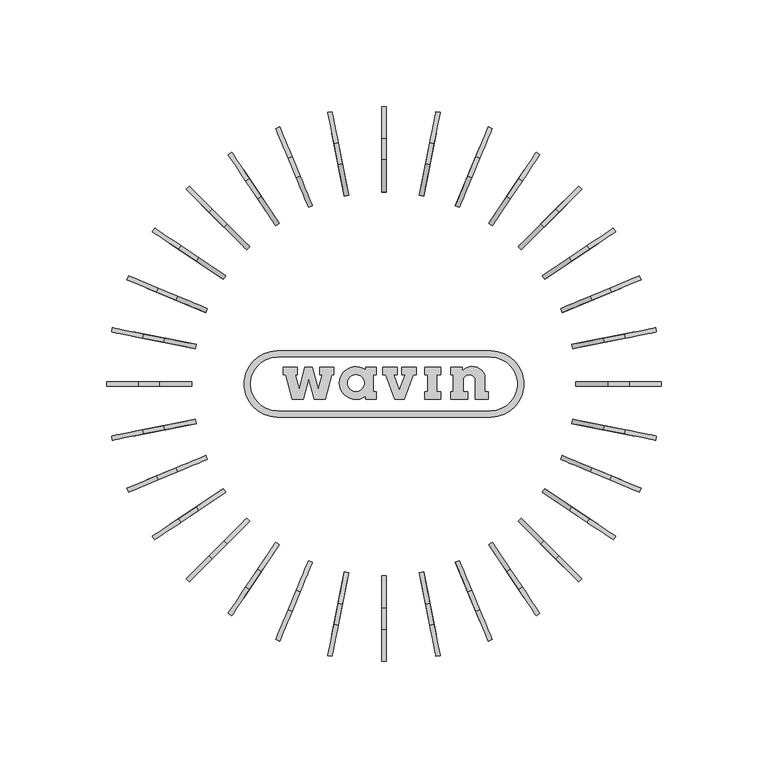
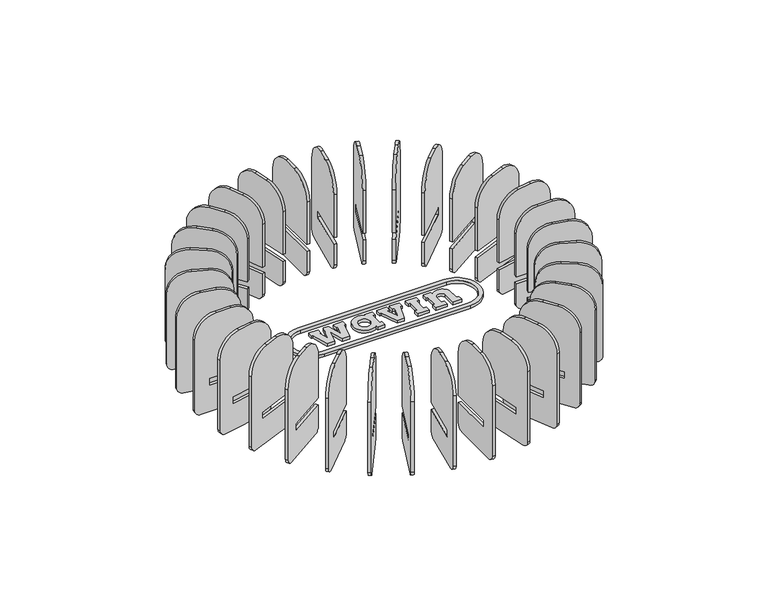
"""IFC4 building model written with IfcOpenShell, lengths in millimetres: sanitary terminal geometry, PAVCO_PVC QS Tragante : QS-M-75-260 Membrana."""

from ifc_helpers import new_model, si_unit, point, frame, frame_2d, origin, place, context, project, spatial, polyline, circle_curve, trimmed, segment, composite_curve, outline, extrude, source, transform, mapped, element, save


def sanitary_terminal_9fa39033(model_context):
    return source(origin(), model_context, "Body", "SweptSolid", [
        extrude(outline(composite_curve([segment(trimmed(circle_curve(frame_2d((0.0, -4.0)), 4.0), [point((-4.0, -4.0))], [point((0.0, 0.0))], False, "CARTESIAN"), True, "CONTINUOUS"), segment(polyline([(0.0, 0.0), (15.0, 0.0), (15.0, -29.9999999), (20.0, -29.9999999), (20.0, 0.0), (51.0, 0.0)]), True, "CONTINUOUS"), segment(trimmed(circle_curve(frame_2d((51.0, -14.9999999)), 15.0), [point((51.0, 0.0))], [point((66.0, -14.9999999))], False, "CARTESIAN"), True, "CONTINUOUS"), segment(polyline([(66.0, -14.9999999), (66.0, -25.0)]), True, "CONTINUOUS"), segment(trimmed(circle_curve(frame_2d((51.0, -25.0)), 15.0), [point((66.0, -25.0))], [point((51.0, -40.0))], False, "CARTESIAN"), True, "CONTINUOUS"), segment(polyline([(51.0, -40.0), (0.0, -40.0)]), True, "CONTINUOUS"), segment(trimmed(circle_curve(frame_2d((0.0, -35.9999999)), 4.0), [point((0.0, -40.0))], [point((-4.0, -35.9999999))], False, "CARTESIAN"), True, "CONTINUOUS"), segment(polyline([(-4.0, -35.9999999), (-4.0, -4.0)]), True, "CONTINUOUS")], self_intersect=False)), frame((-83.5318414, 33.5176294, -4.0), z_axis=(0.38268343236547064, 0.9238795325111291, 0.0), x_axis=(0.0, 0.0, 1.0)), (0.0, 0.0, 1.0), 2.0),
        extrude(outline(composite_curve([segment(trimmed(circle_curve(frame_2d((0.0, -4.0)), 4.0), [point((-4.0, -4.0))], [point((0.0, 0.0))], False, "CARTESIAN"), True, "CONTINUOUS"), segment(polyline([(0.0, 0.0), (15.0, 0.0), (15.0, -30.0), (20.0, -30.0), (20.0, 0.0), (51.0, 0.0)]), True, "CONTINUOUS"), segment(trimmed(circle_curve(frame_2d((51.0, -15.0)), 15.0), [point((51.0, 0.0))], [point((66.0, -15.0))], False, "CARTESIAN"), True, "CONTINUOUS"), segment(polyline([(66.0, -15.0), (66.0, -25.0)]), True, "CONTINUOUS"), segment(trimmed(circle_curve(frame_2d((51.0, -25.0)), 15.0), [point((66.0, -25.0))], [point((51.0, -40.0))], False, "CARTESIAN"), True, "CONTINUOUS"), segment(polyline([(51.0, -40.0), (0.0, -40.0)]), True, "CONTINUOUS"), segment(trimmed(circle_curve(frame_2d((0.0, -36.0)), 4.0), [point((0.0, -40.0))], [point((-4.0, -36.0))], False, "CARTESIAN"), True, "CONTINUOUS"), segment(polyline([(-4.0, -36.0), (-4.0, -4.0)]), True, "CONTINUOUS")], self_intersect=False)), frame((-75.3878353, 49.1698514, -4.0), z_axis=(0.5555702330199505, 0.8314696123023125, 0.0), x_axis=(0.0, 0.0, 1.0)), (0.0, 0.0, 1.0), 2.0),
        extrude(outline(composite_curve([segment(trimmed(circle_curve(frame_2d((0.0, -4.0)), 4.0), [point((-4.0, -4.0))], [point((0.0, 0.0))], False, "CARTESIAN"), True, "CONTINUOUS"), segment(polyline([(0.0, 0.0), (15.0, 0.0), (15.0, -30.0), (20.0, -30.0), (20.0, 0.0), (51.0, 0.0)]), True, "CONTINUOUS"), segment(trimmed(circle_curve(frame_2d((51.0, -15.0)), 15.0), [point((51.0, 0.0))], [point((66.0, -15.0))], False, "CARTESIAN"), True, "CONTINUOUS"), segment(polyline([(66.0, -15.0), (66.0, -25.0)]), True, "CONTINUOUS"), segment(trimmed(circle_curve(frame_2d((51.0, -25.0)), 15.0), [point((66.0, -25.0))], [point((51.0, -40.0))], False, "CARTESIAN"), True, "CONTINUOUS"), segment(polyline([(51.0, -40.0), (0.0, -40.0)]), True, "CONTINUOUS"), segment(trimmed(circle_curve(frame_2d((0.0, -36.0)), 4.0), [point((0.0, -40.0))], [point((-4.0, -36.0))], False, "CARTESIAN"), True, "CONTINUOUS"), segment(polyline([(-4.0, -36.0), (-4.0, -4.0)]), True, "CONTINUOUS")], self_intersect=False)), frame((-64.3467171, 62.9325035, -4.0), z_axis=(0.7071067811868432, 0.7071067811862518, 0.0), x_axis=(0.0, 0.0, 1.0)), (0.0, 0.0, 1.0), 2.0),
        extrude(outline(composite_curve([segment(trimmed(circle_curve(frame_2d((0.0, -3.9999999)), 4.0), [point((-4.0, -3.9999999))], [point((0.0, 0.0))], False, "CARTESIAN"), True, "CONTINUOUS"), segment(polyline([(0.0, 0.0), (15.0, 0.0), (15.0, -29.9999999), (20.0, -29.9999999), (20.0, 0.0), (51.0, 0.0)]), True, "CONTINUOUS"), segment(trimmed(circle_curve(frame_2d((51.0, -15.0)), 15.0), [point((51.0, 0.0))], [point((66.0, -15.0))], False, "CARTESIAN"), True, "CONTINUOUS"), segment(polyline([(66.0, -15.0), (66.0, -25.0)]), True, "CONTINUOUS"), segment(trimmed(circle_curve(frame_2d((51.0, -25.0)), 15.0), [point((66.0, -25.0))], [point((51.0, -40.0))], False, "CARTESIAN"), True, "CONTINUOUS"), segment(polyline([(51.0, -40.0), (0.0, -40.0)]), True, "CONTINUOUS"), segment(trimmed(circle_curve(frame_2d((0.0, -36.0)), 4.0), [point((0.0, -40.0))], [point((-4.0, -36.0))], False, "CARTESIAN"), True, "CONTINUOUS"), segment(polyline([(-4.0, -36.0), (-4.0, -3.9999999)]), True, "CONTINUOUS")], self_intersect=False)), frame((-50.8327906, 74.2766949, -4.0), z_axis=(0.8314696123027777, 0.5555702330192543, 0.0), x_axis=(0.0, 0.0, 1.0)), (0.0, 0.0, 1.0), 2.0),
        extrude(outline(composite_curve([segment(trimmed(circle_curve(frame_2d((0.0, -4.0)), 4.0), [point((-4.0, -4.0))], [point((0.0, 0.0))], False, "CARTESIAN"), True, "CONTINUOUS"), segment(polyline([(0.0, 0.0), (15.0, 0.0), (15.0, -30.0), (20.0, -30.0), (20.0, 0.0), (51.0, 0.0)]), True, "CONTINUOUS"), segment(trimmed(circle_curve(frame_2d((51.0, -15.0)), 15.0), [point((51.0, 0.0))], [point((66.0, -15.0))], False, "CARTESIAN"), True, "CONTINUOUS"), segment(polyline([(66.0, -15.0), (66.0, -25.0)]), True, "CONTINUOUS"), segment(trimmed(circle_curve(frame_2d((51.0, -25.0)), 15.0), [point((66.0, -25.0))], [point((51.0, -40.0))], False, "CARTESIAN"), True, "CONTINUOUS"), segment(polyline([(51.0, -40.0), (0.0, -40.0)]), True, "CONTINUOUS"), segment(trimmed(circle_curve(frame_2d((0.0, -36.0)), 4.0), [point((0.0, -40.0))], [point((-4.0, -36.0))], False, "CARTESIAN"), True, "CONTINUOUS"), segment(polyline([(-4.0, -36.0), (-4.0, -4.0)]), True, "CONTINUOUS")], self_intersect=False)), frame((-35.3653884, 82.7664745, -4.0), z_axis=(0.9238795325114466, 0.3826834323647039, 0.0), x_axis=(0.0, 0.0, 1.0)), (0.0, 0.0, 1.0), 2.0),
        extrude(outline(composite_curve([segment(trimmed(circle_curve(frame_2d((0.0, -4.0)), 4.0), [point((-4.0, -4.0))], [point((0.0, 0.0))], False, "CARTESIAN"), True, "CONTINUOUS"), segment(polyline([(0.0, 0.0), (15.0, 0.0), (15.0, -30.0), (20.0, -30.0), (20.0, 0.0), (51.0, 0.0)]), True, "CONTINUOUS"), segment(trimmed(circle_curve(frame_2d((51.0, -15.0)), 15.0), [point((51.0, 0.0))], [point((66.0, -15.0))], False, "CARTESIAN"), True, "CONTINUOUS"), segment(polyline([(66.0, -15.0), (66.0, -25.0)]), True, "CONTINUOUS"), segment(trimmed(circle_curve(frame_2d((51.0, -25.0)), 15.0), [point((66.0, -25.0))], [point((51.0, -40.0))], False, "CARTESIAN"), True, "CONTINUOUS"), segment(polyline([(51.0, -40.0), (0.0, -40.0)]), True, "CONTINUOUS"), segment(trimmed(circle_curve(frame_2d((0.0, -36.0)), 4.0), [point((0.0, -40.0))], [point((-4.0, -36.0))], False, "CARTESIAN"), True, "CONTINUOUS"), segment(polyline([(-4.0, -36.0), (-4.0, -4.0)]), True, "CONTINUOUS")], self_intersect=False)), frame((-18.5389143, 88.0755849, -4.0), z_axis=(0.980785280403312, 0.19509032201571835, 0.0), x_axis=(0.0, 0.0, 1.0)), (0.0, 0.0, 1.0), 2.0),
        extrude(outline(composite_curve([segment(trimmed(circle_curve(frame_2d((94.0, -4.0)), 4.0), [point((94.0, -8.0))], [point((90.0, -4.0))], False, "CARTESIAN"), True, "CONTINUOUS"), segment(polyline([(90.0, -4.0), (90.0, 11.0), (120.0, 11.0), (120.0, 16.0), (90.0, 16.0), (90.0, 47.0)]), True, "CONTINUOUS"), segment(trimmed(circle_curve(frame_2d((105.0, 47.0)), 15.0), [point((90.0, 47.0))], [point((105.0, 62.0))], False, "CARTESIAN"), True, "CONTINUOUS"), segment(polyline([(105.0, 62.0), (115.0, 62.0)]), True, "CONTINUOUS"), segment(trimmed(circle_curve(frame_2d((115.0, 47.0)), 15.0), [point((115.0, 62.0))], [point((130.0, 47.0))], False, "CARTESIAN"), True, "CONTINUOUS"), segment(polyline([(130.0, 47.0), (130.0, -4.0)]), True, "CONTINUOUS"), segment(trimmed(circle_curve(frame_2d((126.0, -4.0)), 4.0), [point((130.0, -4.0))], [point((126.0, -8.0))], False, "CARTESIAN"), True, "CONTINUOUS"), segment(polyline([(126.0, -8.0), (94.0, -8.0)]), True, "CONTINUOUS")], self_intersect=False)), frame((-1.0, 0.0, 0.0), z_axis=(1.0, 0.0, 0.0), x_axis=(0.0, 1.0, 0.0)), (0.0, 0.0, 1.0), 2.0),
        extrude(outline(composite_curve([segment(polyline([(4.0, -4.0), (4.0, -36.0)]), True, "CONTINUOUS"), segment(trimmed(circle_curve(frame_2d((0.0, -36.0)), 4.0), [point((4.0, -36.0))], [point((0.0, -40.0))], False, "CARTESIAN"), True, "CONTINUOUS"), segment(polyline([(0.0, -40.0), (-51.0, -40.0)]), True, "CONTINUOUS"), segment(trimmed(circle_curve(frame_2d((-51.0, -25.0)), 15.0), [point((-51.0, -40.0))], [point((-66.0, -25.0))], False, "CARTESIAN"), True, "CONTINUOUS"), segment(polyline([(-66.0, -25.0), (-66.0, -15.0)]), True, "CONTINUOUS"), segment(trimmed(circle_curve(frame_2d((-51.0, -15.0)), 15.0), [point((-66.0, -15.0))], [point((-51.0, 0.0))], False, "CARTESIAN"), True, "CONTINUOUS"), segment(polyline([(-51.0, 0.0), (-20.0, 0.0), (-20.0, -30.0), (-15.0, -30.0), (-15.0, 0.0), (0.0, 0.0)]), True, "CONTINUOUS"), segment(trimmed(circle_curve(frame_2d((0.0, -4.0)), 4.0), [point((0.0, 0.0))], [point((4.0, -4.0))], False, "CARTESIAN"), True, "CONTINUOUS")], self_intersect=False)), frame((18.5389143, 88.0755849, -4.0), z_axis=(-0.9807852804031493, 0.19509032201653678, 0.0), x_axis=(0.0, 0.0, -1.0)), (0.0, 0.0, 1.0), 2.0),
        extrude(outline(composite_curve([segment(polyline([(4.0, -4.0), (4.0, -36.0)]), True, "CONTINUOUS"), segment(trimmed(circle_curve(frame_2d((0.0, -36.0)), 4.0), [point((4.0, -36.0))], [point((0.0, -40.0))], False, "CARTESIAN"), True, "CONTINUOUS"), segment(polyline([(0.0, -40.0), (-51.0, -40.0)]), True, "CONTINUOUS"), segment(trimmed(circle_curve(frame_2d((-51.0, -25.0)), 15.0), [point((-51.0, -40.0))], [point((-66.0, -25.0))], False, "CARTESIAN"), True, "CONTINUOUS"), segment(polyline([(-66.0, -25.0), (-66.0, -15.0)]), True, "CONTINUOUS"), segment(trimmed(circle_curve(frame_2d((-51.0, -15.0)), 15.0), [point((-66.0, -15.0))], [point((-51.0, 0.0))], False, "CARTESIAN"), True, "CONTINUOUS"), segment(polyline([(-51.0, 0.0), (-20.0, 0.0), (-20.0, -30.0), (-15.0, -30.0), (-15.0, 0.0), (0.0, 0.0)]), True, "CONTINUOUS"), segment(trimmed(circle_curve(frame_2d((0.0, -4.0)), 4.0), [point((0.0, 0.0))], [point((4.0, -4.0))], False, "CARTESIAN"), True, "CONTINUOUS")], self_intersect=False)), frame((35.3653884, 82.7664745, -4.0), z_axis=(-0.9238795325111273, 0.38268343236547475, 0.0), x_axis=(0.0, 0.0, -1.0)), (0.0, 0.0, 1.0), 2.0),
        extrude(outline(composite_curve([segment(polyline([(4.0, -3.9999999), (4.0, -36.0)]), True, "CONTINUOUS"), segment(trimmed(circle_curve(frame_2d((0.0, -36.0)), 4.0), [point((4.0, -36.0))], [point((0.0, -40.0))], False, "CARTESIAN"), True, "CONTINUOUS"), segment(polyline([(0.0, -40.0), (-51.0, -40.0)]), True, "CONTINUOUS"), segment(trimmed(circle_curve(frame_2d((-51.0, -25.0)), 15.0), [point((-51.0, -40.0))], [point((-66.0, -25.0))], False, "CARTESIAN"), True, "CONTINUOUS"), segment(polyline([(-66.0, -25.0), (-66.0, -15.0)]), True, "CONTINUOUS"), segment(trimmed(circle_curve(frame_2d((-51.0, -15.0)), 15.0), [point((-66.0, -15.0))], [point((-51.0, 0.0))], False, "CARTESIAN"), True, "CONTINUOUS"), segment(polyline([(-51.0, 0.0), (-20.0, 0.0), (-20.0, -29.9999999), (-15.0, -29.9999999), (-15.0, 0.0), (0.0, 0.0)]), True, "CONTINUOUS"), segment(trimmed(circle_curve(frame_2d((0.0, -3.9999999)), 4.0), [point((0.0, 0.0))], [point((4.0, -3.9999999))], False, "CARTESIAN"), True, "CONTINUOUS")], self_intersect=False)), frame((50.8327906, 74.2766949, -4.0), z_axis=(-0.8314696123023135, 0.5555702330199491, 0.0), x_axis=(0.0, 0.0, -1.0)), (0.0, 0.0, 1.0), 2.0),
        extrude(outline(composite_curve([segment(polyline([(4.0, -4.0), (4.0, -36.0)]), True, "CONTINUOUS"), segment(trimmed(circle_curve(frame_2d((0.0, -36.0)), 4.0), [point((4.0, -36.0))], [point((0.0, -40.0))], False, "CARTESIAN"), True, "CONTINUOUS"), segment(polyline([(0.0, -40.0), (-51.0, -40.0)]), True, "CONTINUOUS"), segment(trimmed(circle_curve(frame_2d((-51.0, -25.0)), 15.0), [point((-51.0, -40.0))], [point((-66.0, -25.0))], False, "CARTESIAN"), True, "CONTINUOUS"), segment(polyline([(-66.0, -25.0), (-66.0, -15.0)]), True, "CONTINUOUS"), segment(trimmed(circle_curve(frame_2d((-51.0, -15.0)), 15.0), [point((-66.0, -15.0))], [point((-51.0, 0.0))], False, "CARTESIAN"), True, "CONTINUOUS"), segment(polyline([(-51.0, 0.0), (-20.0, 0.0), (-20.0, -30.0), (-15.0, -30.0), (-15.0, 0.0), (0.0, 0.0)]), True, "CONTINUOUS"), segment(trimmed(circle_curve(frame_2d((0.0, -4.0)), 4.0), [point((0.0, 0.0))], [point((4.0, -4.0))], False, "CARTESIAN"), True, "CONTINUOUS")], self_intersect=False)), frame((64.3467171, 62.9325035, -4.0), z_axis=(-0.7071067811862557, 0.7071067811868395, 0.0), x_axis=(0.0, 0.0, -1.0)), (0.0, 0.0, 1.0), 2.0),
        extrude(outline(composite_curve([segment(polyline([(4.0, -4.0), (4.0, -36.0)]), True, "CONTINUOUS"), segment(trimmed(circle_curve(frame_2d((0.0, -36.0)), 4.0), [point((4.0, -36.0))], [point((0.0, -40.0))], False, "CARTESIAN"), True, "CONTINUOUS"), segment(polyline([(0.0, -40.0), (-51.0, -40.0)]), True, "CONTINUOUS"), segment(trimmed(circle_curve(frame_2d((-51.0, -25.0)), 15.0), [point((-51.0, -40.0))], [point((-66.0, -25.0))], False, "CARTESIAN"), True, "CONTINUOUS"), segment(polyline([(-66.0, -25.0), (-66.0, -15.0)]), True, "CONTINUOUS"), segment(trimmed(circle_curve(frame_2d((-51.0, -15.0)), 15.0), [point((-66.0, -15.0))], [point((-51.0, 0.0))], False, "CARTESIAN"), True, "CONTINUOUS"), segment(polyline([(-51.0, 0.0), (-20.0, 0.0), (-20.0, -30.0), (-15.0, -30.0), (-15.0, 0.0), (0.0, 0.0)]), True, "CONTINUOUS"), segment(trimmed(circle_curve(frame_2d((0.0, -4.0)), 4.0), [point((0.0, 0.0))], [point((4.0, -4.0))], False, "CARTESIAN"), True, "CONTINUOUS")], self_intersect=False)), frame((75.3878353, 49.1698514, -4.0), z_axis=(-0.5555702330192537, 0.8314696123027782, 0.0), x_axis=(0.0, 0.0, -1.0)), (0.0, 0.0, 1.0), 2.0),
        extrude(outline(composite_curve([segment(polyline([(4.0, -4.0), (4.0, -35.9999999)]), True, "CONTINUOUS"), segment(trimmed(circle_curve(frame_2d((0.0, -35.9999999)), 4.0), [point((4.0, -35.9999999))], [point((0.0, -40.0))], False, "CARTESIAN"), True, "CONTINUOUS"), segment(polyline([(0.0, -40.0), (-51.0, -40.0)]), True, "CONTINUOUS"), segment(trimmed(circle_curve(frame_2d((-51.0, -25.0)), 15.0), [point((-51.0, -40.0))], [point((-66.0, -25.0))], False, "CARTESIAN"), True, "CONTINUOUS"), segment(polyline([(-66.0, -25.0), (-66.0, -14.9999999)]), True, "CONTINUOUS"), segment(trimmed(circle_curve(frame_2d((-51.0, -14.9999999)), 15.0), [point((-66.0, -14.9999999))], [point((-51.0, 0.0))], False, "CARTESIAN"), True, "CONTINUOUS"), segment(polyline([(-51.0, 0.0), (-20.0, 0.0), (-20.0, -29.9999999), (-15.0, -29.9999999), (-15.0, 0.0), (0.0, 0.0)]), True, "CONTINUOUS"), segment(trimmed(circle_curve(frame_2d((0.0, -4.0)), 4.0), [point((0.0, 0.0))], [point((4.0, -4.0))], False, "CARTESIAN"), True, "CONTINUOUS")], self_intersect=False)), frame((83.5318414, 33.5176294, -4.0), z_axis=(-0.38268343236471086, 0.9238795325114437, 0.0), x_axis=(0.0, 0.0, -1.0)), (0.0, 0.0, 1.0), 2.0),
        extrude(outline(composite_curve([segment(polyline([(4.0, -4.0), (4.0, -36.0)]), True, "CONTINUOUS"), segment(trimmed(circle_curve(frame_2d((0.0, -36.0)), 4.0), [point((4.0, -36.0))], [point((0.0, -40.0))], False, "CARTESIAN"), True, "CONTINUOUS"), segment(polyline([(0.0, -40.0), (-51.0, -40.0)]), True, "CONTINUOUS"), segment(trimmed(circle_curve(frame_2d((-51.0, -25.0)), 15.0), [point((-51.0, -40.0))], [point((-66.0, -25.0))], False, "CARTESIAN"), True, "CONTINUOUS"), segment(polyline([(-66.0, -25.0), (-66.0, -15.0)]), True, "CONTINUOUS"), segment(trimmed(circle_curve(frame_2d((-51.0, -15.0)), 15.0), [point((-66.0, -15.0))], [point((-51.0, 0.0))], False, "CARTESIAN"), True, "CONTINUOUS"), segment(polyline([(-51.0, 0.0), (-20.0, 0.0), (-20.0, -30.0), (-15.0, -30.0), (-15.0, 0.0), (0.0, 0.0)]), True, "CONTINUOUS"), segment(trimmed(circle_curve(frame_2d((0.0, -4.0)), 4.0), [point((0.0, 0.0))], [point((4.0, -4.0))], False, "CARTESIAN"), True, "CONTINUOUS")], self_intersect=False)), frame((88.4657656, 16.5773437, -4.0), z_axis=(-0.19509032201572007, 0.9807852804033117, 0.0), x_axis=(0.0, 0.0, -1.0)), (0.0, 0.0, 1.0), 2.0),
        extrude(outline(composite_curve([segment(polyline([(-8.0, 94.0), (-8.0, 126.0)]), True, "CONTINUOUS"), segment(trimmed(circle_curve(frame_2d((-4.0, 126.0)), 4.0), [point((-8.0, 126.0))], [point((-4.0, 130.0))], False, "CARTESIAN"), True, "CONTINUOUS"), segment(polyline([(-4.0, 130.0), (47.0, 130.0)]), True, "CONTINUOUS"), segment(trimmed(circle_curve(frame_2d((47.0, 115.0)), 15.0), [point((47.0, 130.0))], [point((62.0, 115.0))], False, "CARTESIAN"), True, "CONTINUOUS"), segment(polyline([(62.0, 115.0), (62.0, 105.0)]), True, "CONTINUOUS"), segment(trimmed(circle_curve(frame_2d((47.0, 105.0)), 15.0), [point((62.0, 105.0))], [point((47.0, 90.0))], False, "CARTESIAN"), True, "CONTINUOUS"), segment(polyline([(47.0, 90.0), (16.0, 90.0), (16.0, 120.0), (11.0, 120.0), (11.0, 90.0), (-4.0, 90.0)]), True, "CONTINUOUS"), segment(trimmed(circle_curve(frame_2d((-4.0, 94.0)), 4.0), [point((-4.0, 90.0))], [point((-8.0, 94.0))], False, "CARTESIAN"), True, "CONTINUOUS")], self_intersect=False)), frame((0.0, -1.0, 0.0), z_axis=(0.0, 1.0, 0.0), x_axis=(0.0, 0.0, 1.0)), (0.0, 0.0, 1.0), 2.0),
        extrude(outline(composite_curve([segment(polyline([(4.0, -4.0), (4.0, -36.0)]), True, "CONTINUOUS"), segment(trimmed(circle_curve(frame_2d((0.0, -36.0)), 4.0), [point((4.0, -36.0))], [point((0.0, -40.0))], False, "CARTESIAN"), True, "CONTINUOUS"), segment(polyline([(0.0, -40.0), (-51.0, -40.0)]), True, "CONTINUOUS"), segment(trimmed(circle_curve(frame_2d((-51.0, -25.0)), 15.0), [point((-51.0, -40.0))], [point((-66.0, -25.0))], False, "CARTESIAN"), True, "CONTINUOUS"), segment(polyline([(-66.0, -25.0), (-66.0, -15.0)]), True, "CONTINUOUS"), segment(trimmed(circle_curve(frame_2d((-51.0, -15.0)), 15.0), [point((-66.0, -15.0))], [point((-51.0, 0.0))], False, "CARTESIAN"), True, "CONTINUOUS"), segment(polyline([(-51.0, 0.0), (-20.0, 0.0), (-20.0, -30.0), (-15.0, -30.0), (-15.0, 0.0), (0.0, 0.0)]), True, "CONTINUOUS"), segment(trimmed(circle_curve(frame_2d((0.0, -4.0)), 4.0), [point((0.0, 0.0))], [point((4.0, -4.0))], False, "CARTESIAN"), True, "CONTINUOUS")], self_intersect=False)), frame((88.0755849, -18.5389143, -4.0), z_axis=(0.19509032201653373, 0.9807852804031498, 0.0), x_axis=(0.0, 0.0, -1.0)), (0.0, 0.0, 1.0), 2.0),
        extrude(outline(composite_curve([segment(polyline([(4.0, -4.0), (4.0, -36.0)]), True, "CONTINUOUS"), segment(trimmed(circle_curve(frame_2d((0.0, -36.0)), 4.0), [point((4.0, -36.0))], [point((0.0, -40.0))], False, "CARTESIAN"), True, "CONTINUOUS"), segment(polyline([(0.0, -40.0), (-51.0, -40.0)]), True, "CONTINUOUS"), segment(trimmed(circle_curve(frame_2d((-51.0, -25.0)), 15.0), [point((-51.0, -40.0))], [point((-66.0, -25.0))], False, "CARTESIAN"), True, "CONTINUOUS"), segment(polyline([(-66.0, -25.0), (-66.0, -15.0)]), True, "CONTINUOUS"), segment(trimmed(circle_curve(frame_2d((-51.0, -15.0)), 15.0), [point((-66.0, -15.0))], [point((-51.0, 0.0))], False, "CARTESIAN"), True, "CONTINUOUS"), segment(polyline([(-51.0, 0.0), (-20.0, 0.0), (-20.0, -30.0), (-15.0, -30.0), (-15.0, 0.0), (0.0, 0.0)]), True, "CONTINUOUS"), segment(trimmed(circle_curve(frame_2d((0.0, -4.0)), 4.0), [point((0.0, 0.0))], [point((4.0, -4.0))], False, "CARTESIAN"), True, "CONTINUOUS")], self_intersect=False)), frame((82.7664745, -35.3653884, -4.0), z_axis=(0.3826834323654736, 0.9238795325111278, 0.0), x_axis=(0.0, 0.0, -1.0)), (0.0, 0.0, 1.0), 2.0),
        extrude(outline(composite_curve([segment(polyline([(4.0, -3.9999999), (4.0, -36.0)]), True, "CONTINUOUS"), segment(trimmed(circle_curve(frame_2d((0.0, -36.0)), 4.0), [point((4.0, -36.0))], [point((0.0, -40.0))], False, "CARTESIAN"), True, "CONTINUOUS"), segment(polyline([(0.0, -40.0), (-51.0, -40.0)]), True, "CONTINUOUS"), segment(trimmed(circle_curve(frame_2d((-51.0, -25.0)), 15.0), [point((-51.0, -40.0))], [point((-66.0, -25.0))], False, "CARTESIAN"), True, "CONTINUOUS"), segment(polyline([(-66.0, -25.0), (-66.0, -15.0)]), True, "CONTINUOUS"), segment(trimmed(circle_curve(frame_2d((-51.0, -15.0)), 15.0), [point((-66.0, -15.0))], [point((-51.0, 0.0))], False, "CARTESIAN"), True, "CONTINUOUS"), segment(polyline([(-51.0, 0.0), (-20.0, 0.0), (-20.0, -29.9999999), (-15.0, -29.9999999), (-15.0, 0.0), (0.0, 0.0)]), True, "CONTINUOUS"), segment(trimmed(circle_curve(frame_2d((0.0, -3.9999999)), 4.0), [point((0.0, 0.0))], [point((4.0, -3.9999999))], False, "CARTESIAN"), True, "CONTINUOUS")], self_intersect=False)), frame((74.2766949, -50.8327906, -4.0), z_axis=(0.5555702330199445, 0.8314696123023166, 0.0), x_axis=(0.0, 0.0, -1.0)), (0.0, 0.0, 1.0), 2.0),
        extrude(outline(composite_curve([segment(polyline([(4.0, -4.0), (4.0, -36.0)]), True, "CONTINUOUS"), segment(trimmed(circle_curve(frame_2d((0.0, -36.0)), 4.0), [point((4.0, -36.0))], [point((0.0, -40.0))], False, "CARTESIAN"), True, "CONTINUOUS"), segment(polyline([(0.0, -40.0), (-51.0, -40.0)]), True, "CONTINUOUS"), segment(trimmed(circle_curve(frame_2d((-51.0, -25.0)), 15.0), [point((-51.0, -40.0))], [point((-66.0, -25.0))], False, "CARTESIAN"), True, "CONTINUOUS"), segment(polyline([(-66.0, -25.0), (-66.0, -15.0)]), True, "CONTINUOUS"), segment(trimmed(circle_curve(frame_2d((-51.0, -15.0)), 15.0), [point((-66.0, -15.0))], [point((-51.0, 0.0))], False, "CARTESIAN"), True, "CONTINUOUS"), segment(polyline([(-51.0, 0.0), (-20.0, 0.0), (-20.0, -30.0), (-15.0, -30.0), (-15.0, 0.0), (0.0, 0.0)]), True, "CONTINUOUS"), segment(trimmed(circle_curve(frame_2d((0.0, -4.0)), 4.0), [point((0.0, 0.0))], [point((4.0, -4.0))], False, "CARTESIAN"), True, "CONTINUOUS")], self_intersect=False)), frame((62.9325035, -64.3467171, -4.0), z_axis=(0.7071067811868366, 0.7071067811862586, 0.0), x_axis=(0.0, 0.0, -1.0)), (0.0, 0.0, 1.0), 2.0),
        extrude(outline(composite_curve([segment(polyline([(4.0, -4.0), (4.0, -36.0)]), True, "CONTINUOUS"), segment(trimmed(circle_curve(frame_2d((0.0, -36.0)), 4.0), [point((4.0, -36.0))], [point((0.0, -40.0))], False, "CARTESIAN"), True, "CONTINUOUS"), segment(polyline([(0.0, -40.0), (-51.0, -40.0)]), True, "CONTINUOUS"), segment(trimmed(circle_curve(frame_2d((-51.0, -25.0)), 15.0), [point((-51.0, -40.0))], [point((-66.0, -25.0))], False, "CARTESIAN"), True, "CONTINUOUS"), segment(polyline([(-66.0, -25.0), (-66.0, -15.0)]), True, "CONTINUOUS"), segment(trimmed(circle_curve(frame_2d((-51.0, -15.0)), 15.0), [point((-66.0, -15.0))], [point((-51.0, 0.0))], False, "CARTESIAN"), True, "CONTINUOUS"), segment(polyline([(-51.0, 0.0), (-20.0, 0.0), (-20.0, -30.0), (-15.0, -30.0), (-15.0, 0.0), (0.0, 0.0)]), True, "CONTINUOUS"), segment(trimmed(circle_curve(frame_2d((0.0, -4.0)), 4.0), [point((0.0, 0.0))], [point((4.0, -4.0))], False, "CARTESIAN"), True, "CONTINUOUS")], self_intersect=False)), frame((49.1698514, -75.3878353, -4.0), z_axis=(0.8314696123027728, 0.5555702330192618, 0.0), x_axis=(0.0, 0.0, -1.0)), (0.0, 0.0, 1.0), 2.0),
        extrude(outline(composite_curve([segment(polyline([(4.0, -4.0), (4.0, -35.9999999)]), True, "CONTINUOUS"), segment(trimmed(circle_curve(frame_2d((0.0, -35.9999999)), 4.0), [point((4.0, -35.9999999))], [point((0.0, -40.0))], False, "CARTESIAN"), True, "CONTINUOUS"), segment(polyline([(0.0, -40.0), (-51.0, -40.0)]), True, "CONTINUOUS"), segment(trimmed(circle_curve(frame_2d((-51.0, -25.0)), 15.0), [point((-51.0, -40.0))], [point((-66.0, -25.0))], False, "CARTESIAN"), True, "CONTINUOUS"), segment(polyline([(-66.0, -25.0), (-66.0, -14.9999999)]), True, "CONTINUOUS"), segment(trimmed(circle_curve(frame_2d((-51.0, -14.9999999)), 15.0), [point((-66.0, -14.9999999))], [point((-51.0, 0.0))], False, "CARTESIAN"), True, "CONTINUOUS"), segment(polyline([(-51.0, 0.0), (-20.0, 0.0), (-20.0, -29.9999999), (-15.0, -29.9999999), (-15.0, 0.0), (0.0, 0.0)]), True, "CONTINUOUS"), segment(trimmed(circle_curve(frame_2d((0.0, -4.0)), 4.0), [point((0.0, 0.0))], [point((4.0, -4.0))], False, "CARTESIAN"), True, "CONTINUOUS")], self_intersect=False)), frame((33.5176294, -83.5318414, -4.0), z_axis=(0.9238795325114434, 0.38268343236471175, 0.0), x_axis=(0.0, 0.0, -1.0)), (0.0, 0.0, 1.0), 2.0),
        extrude(outline(composite_curve([segment(polyline([(4.0, -4.0), (4.0, -36.0)]), True, "CONTINUOUS"), segment(trimmed(circle_curve(frame_2d((0.0, -36.0)), 4.0), [point((4.0, -36.0))], [point((0.0, -40.0))], False, "CARTESIAN"), True, "CONTINUOUS"), segment(polyline([(0.0, -40.0), (-51.0, -40.0)]), True, "CONTINUOUS"), segment(trimmed(circle_curve(frame_2d((-51.0, -25.0)), 15.0), [point((-51.0, -40.0))], [point((-66.0, -25.0))], False, "CARTESIAN"), True, "CONTINUOUS"), segment(polyline([(-66.0, -25.0), (-66.0, -15.0)]), True, "CONTINUOUS"), segment(trimmed(circle_curve(frame_2d((-51.0, -15.0)), 15.0), [point((-66.0, -15.0))], [point((-51.0, 0.0))], False, "CARTESIAN"), True, "CONTINUOUS"), segment(polyline([(-51.0, 0.0), (-20.0, 0.0), (-20.0, -30.0), (-15.0, -30.0), (-15.0, 0.0), (0.0, 0.0)]), True, "CONTINUOUS"), segment(trimmed(circle_curve(frame_2d((0.0, -4.0)), 4.0), [point((0.0, 0.0))], [point((4.0, -4.0))], False, "CARTESIAN"), True, "CONTINUOUS")], self_intersect=False)), frame((16.5773437, -88.4657656, -4.0), z_axis=(0.9807852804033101, 0.1950903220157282, 0.0), x_axis=(0.0, 0.0, -1.0)), (0.0, 0.0, 1.0), 2.0),
        extrude(outline(composite_curve([segment(polyline([(-94.0, -8.0), (-126.0, -8.0)]), True, "CONTINUOUS"), segment(trimmed(circle_curve(frame_2d((-126.0, -4.0)), 4.0), [point((-126.0, -8.0))], [point((-130.0, -4.0))], False, "CARTESIAN"), True, "CONTINUOUS"), segment(polyline([(-130.0, -4.0), (-130.0, 47.0)]), True, "CONTINUOUS"), segment(trimmed(circle_curve(frame_2d((-115.0, 47.0)), 15.0), [point((-130.0, 47.0))], [point((-115.0, 62.0))], False, "CARTESIAN"), True, "CONTINUOUS"), segment(polyline([(-115.0, 62.0), (-105.0, 62.0)]), True, "CONTINUOUS"), segment(trimmed(circle_curve(frame_2d((-105.0, 47.0)), 15.0), [point((-105.0, 62.0))], [point((-90.0, 47.0))], False, "CARTESIAN"), True, "CONTINUOUS"), segment(polyline([(-90.0, 47.0), (-90.0, 16.0), (-120.0, 16.0), (-120.0, 11.0), (-90.0, 11.0), (-90.0, -4.0)]), True, "CONTINUOUS"), segment(trimmed(circle_curve(frame_2d((-94.0, -4.0)), 4.0), [point((-90.0, -4.0))], [point((-94.0, -8.0))], False, "CARTESIAN"), True, "CONTINUOUS")], self_intersect=False)), frame((-1.0, 0.0, 0.0), z_axis=(1.0, 0.0, 0.0), x_axis=(0.0, 1.0, 0.0)), (0.0, 0.0, 1.0), 2.0),
        extrude(outline(composite_curve([segment(trimmed(circle_curve(frame_2d((0.0, -4.0)), 4.0), [point((-4.0, -4.0))], [point((0.0, 0.0))], False, "CARTESIAN"), True, "CONTINUOUS"), segment(polyline([(0.0, 0.0), (15.0, 0.0), (15.0, -30.0), (20.0, -30.0), (20.0, 0.0), (51.0, 0.0)]), True, "CONTINUOUS"), segment(trimmed(circle_curve(frame_2d((51.0, -15.0)), 15.0), [point((51.0, 0.0))], [point((66.0, -15.0))], False, "CARTESIAN"), True, "CONTINUOUS"), segment(polyline([(66.0, -15.0), (66.0, -25.0)]), True, "CONTINUOUS"), segment(trimmed(circle_curve(frame_2d((51.0, -25.0)), 15.0), [point((66.0, -25.0))], [point((51.0, -40.0))], False, "CARTESIAN"), True, "CONTINUOUS"), segment(polyline([(51.0, -40.0), (0.0, -40.0)]), True, "CONTINUOUS"), segment(trimmed(circle_curve(frame_2d((0.0, -36.0)), 4.0), [point((0.0, -40.0))], [point((-4.0, -36.0))], False, "CARTESIAN"), True, "CONTINUOUS"), segment(polyline([(-4.0, -36.0), (-4.0, -4.0)]), True, "CONTINUOUS")], self_intersect=False)), frame((-16.5773437, -88.4657656, -4.0), z_axis=(-0.9807852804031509, 0.19509032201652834, 0.0), x_axis=(0.0, 0.0, 1.0)), (0.0, 0.0, 1.0), 2.0),
        extrude(outline(composite_curve([segment(trimmed(circle_curve(frame_2d((0.0, -4.0)), 4.0), [point((-4.0, -4.0))], [point((0.0, 0.0))], False, "CARTESIAN"), True, "CONTINUOUS"), segment(polyline([(0.0, 0.0), (15.0, 0.0), (15.0, -29.9999999), (20.0, -29.9999999), (20.0, 0.0), (51.0, 0.0)]), True, "CONTINUOUS"), segment(trimmed(circle_curve(frame_2d((51.0, -14.9999999)), 15.0), [point((51.0, 0.0))], [point((66.0, -14.9999999))], False, "CARTESIAN"), True, "CONTINUOUS"), segment(polyline([(66.0, -14.9999999), (66.0, -25.0)]), True, "CONTINUOUS"), segment(trimmed(circle_curve(frame_2d((51.0, -25.0)), 15.0), [point((66.0, -25.0))], [point((51.0, -40.0))], False, "CARTESIAN"), True, "CONTINUOUS"), segment(polyline([(51.0, -40.0), (0.0, -40.0)]), True, "CONTINUOUS"), segment(trimmed(circle_curve(frame_2d((0.0, -35.9999999)), 4.0), [point((0.0, -40.0))], [point((-4.0, -35.9999999))], False, "CARTESIAN"), True, "CONTINUOUS"), segment(polyline([(-4.0, -35.9999999), (-4.0, -4.0)]), True, "CONTINUOUS")], self_intersect=False)), frame((-33.5176294, -83.5318414, -4.0), z_axis=(-0.9238795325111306, 0.3826834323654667, 0.0), x_axis=(0.0, 0.0, 1.0)), (0.0, 0.0, 1.0), 2.0),
        extrude(outline(composite_curve([segment(trimmed(circle_curve(frame_2d((0.0, -4.0)), 4.0), [point((-4.0, -4.0))], [point((0.0, 0.0))], False, "CARTESIAN"), True, "CONTINUOUS"), segment(polyline([(0.0, 0.0), (15.0, 0.0), (15.0, -30.0), (20.0, -30.0), (20.0, 0.0), (51.0, 0.0)]), True, "CONTINUOUS"), segment(trimmed(circle_curve(frame_2d((51.0, -15.0)), 15.0), [point((51.0, 0.0))], [point((66.0, -15.0))], False, "CARTESIAN"), True, "CONTINUOUS"), segment(polyline([(66.0, -15.0), (66.0, -25.0)]), True, "CONTINUOUS"), segment(trimmed(circle_curve(frame_2d((51.0, -25.0)), 15.0), [point((66.0, -25.0))], [point((51.0, -40.0))], False, "CARTESIAN"), True, "CONTINUOUS"), segment(polyline([(51.0, -40.0), (0.0, -40.0)]), True, "CONTINUOUS"), segment(trimmed(circle_curve(frame_2d((0.0, -36.0)), 4.0), [point((0.0, -40.0))], [point((-4.0, -36.0))], False, "CARTESIAN"), True, "CONTINUOUS"), segment(polyline([(-4.0, -36.0), (-4.0, -4.0)]), True, "CONTINUOUS")], self_intersect=False)), frame((-49.1698514, -75.3878353, -4.0), z_axis=(-0.8314696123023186, 0.5555702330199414, 0.0), x_axis=(0.0, 0.0, 1.0)), (0.0, 0.0, 1.0), 2.0),
        extrude(outline(composite_curve([segment(trimmed(circle_curve(frame_2d((0.0, -4.0)), 4.0), [point((-4.0, -4.0))], [point((0.0, 0.0))], False, "CARTESIAN"), True, "CONTINUOUS"), segment(polyline([(0.0, 0.0), (15.0, 0.0), (15.0, -30.0), (20.0, -30.0), (20.0, 0.0), (51.0, 0.0)]), True, "CONTINUOUS"), segment(trimmed(circle_curve(frame_2d((51.0, -15.0)), 15.0), [point((51.0, 0.0))], [point((66.0, -15.0))], False, "CARTESIAN"), True, "CONTINUOUS"), segment(polyline([(66.0, -15.0), (66.0, -25.0)]), True, "CONTINUOUS"), segment(trimmed(circle_curve(frame_2d((51.0, -25.0)), 15.0), [point((66.0, -25.0))], [point((51.0, -40.0))], False, "CARTESIAN"), True, "CONTINUOUS"), segment(polyline([(51.0, -40.0), (0.0, -40.0)]), True, "CONTINUOUS"), segment(trimmed(circle_curve(frame_2d((0.0, -36.0)), 4.0), [point((0.0, -40.0))], [point((-4.0, -36.0))], False, "CARTESIAN"), True, "CONTINUOUS"), segment(polyline([(-4.0, -36.0), (-4.0, -4.0)]), True, "CONTINUOUS")], self_intersect=False)), frame((-62.9325035, -64.3467171, -4.0), z_axis=(-0.7071067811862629, 0.7071067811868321, 0.0), x_axis=(0.0, 0.0, 1.0)), (0.0, 0.0, 1.0), 2.0),
        extrude(outline(composite_curve([segment(trimmed(circle_curve(frame_2d((0.0, -3.9999999)), 4.0), [point((-4.0, -3.9999999))], [point((0.0, 0.0))], False, "CARTESIAN"), True, "CONTINUOUS"), segment(polyline([(0.0, 0.0), (15.0, 0.0), (15.0, -29.9999999), (20.0, -29.9999999), (20.0, 0.0), (51.0, 0.0)]), True, "CONTINUOUS"), segment(trimmed(circle_curve(frame_2d((51.0, -15.0)), 15.0), [point((51.0, 0.0))], [point((66.0, -15.0))], False, "CARTESIAN"), True, "CONTINUOUS"), segment(polyline([(66.0, -15.0), (66.0, -25.0)]), True, "CONTINUOUS"), segment(trimmed(circle_curve(frame_2d((51.0, -25.0)), 15.0), [point((66.0, -25.0))], [point((51.0, -40.0))], False, "CARTESIAN"), True, "CONTINUOUS"), segment(polyline([(51.0, -40.0), (0.0, -40.0)]), True, "CONTINUOUS"), segment(trimmed(circle_curve(frame_2d((0.0, -36.0)), 4.0), [point((0.0, -40.0))], [point((-4.0, -36.0))], False, "CARTESIAN"), True, "CONTINUOUS"), segment(polyline([(-4.0, -36.0), (-4.0, -3.9999999)]), True, "CONTINUOUS")], self_intersect=False)), frame((-74.2766949, -50.8327906, -4.0), z_axis=(-0.5555702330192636, 0.8314696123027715, 0.0), x_axis=(0.0, 0.0, 1.0)), (0.0, 0.0, 1.0), 2.0),
        extrude(outline(composite_curve([segment(trimmed(circle_curve(frame_2d((0.0, -4.0)), 4.0), [point((-4.0, -4.0))], [point((0.0, 0.0))], False, "CARTESIAN"), True, "CONTINUOUS"), segment(polyline([(0.0, 0.0), (15.0, 0.0), (15.0, -30.0), (20.0, -30.0), (20.0, 0.0), (51.0, 0.0)]), True, "CONTINUOUS"), segment(trimmed(circle_curve(frame_2d((51.0, -15.0)), 15.0), [point((51.0, 0.0))], [point((66.0, -15.0))], False, "CARTESIAN"), True, "CONTINUOUS"), segment(polyline([(66.0, -15.0), (66.0, -25.0)]), True, "CONTINUOUS"), segment(trimmed(circle_curve(frame_2d((51.0, -25.0)), 15.0), [point((66.0, -25.0))], [point((51.0, -40.0))], False, "CARTESIAN"), True, "CONTINUOUS"), segment(polyline([(51.0, -40.0), (0.0, -40.0)]), True, "CONTINUOUS"), segment(trimmed(circle_curve(frame_2d((0.0, -36.0)), 4.0), [point((0.0, -40.0))], [point((-4.0, -36.0))], False, "CARTESIAN"), True, "CONTINUOUS"), segment(polyline([(-4.0, -36.0), (-4.0, -4.0)]), True, "CONTINUOUS")], self_intersect=False)), frame((-82.7664745, -35.3653884, -4.0), z_axis=(-0.3826834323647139, 0.9238795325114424, 0.0), x_axis=(0.0, 0.0, 1.0)), (0.0, 0.0, 1.0), 2.0),
        extrude(outline(composite_curve([segment(trimmed(circle_curve(frame_2d((0.0, -4.0)), 4.0), [point((-4.0, -4.0))], [point((0.0, 0.0))], False, "CARTESIAN"), True, "CONTINUOUS"), segment(polyline([(0.0, 0.0), (15.0, 0.0), (15.0, -30.0), (20.0, -30.0), (20.0, 0.0), (51.0, 0.0)]), True, "CONTINUOUS"), segment(trimmed(circle_curve(frame_2d((51.0, -15.0)), 15.0), [point((51.0, 0.0))], [point((66.0, -15.0))], False, "CARTESIAN"), True, "CONTINUOUS"), segment(polyline([(66.0, -15.0), (66.0, -25.0)]), True, "CONTINUOUS"), segment(trimmed(circle_curve(frame_2d((51.0, -25.0)), 15.0), [point((66.0, -25.0))], [point((51.0, -40.0))], False, "CARTESIAN"), True, "CONTINUOUS"), segment(polyline([(51.0, -40.0), (0.0, -40.0)]), True, "CONTINUOUS"), segment(trimmed(circle_curve(frame_2d((0.0, -36.0)), 4.0), [point((0.0, -40.0))], [point((-4.0, -36.0))], False, "CARTESIAN"), True, "CONTINUOUS"), segment(polyline([(-4.0, -36.0), (-4.0, -4.0)]), True, "CONTINUOUS")], self_intersect=False)), frame((-88.0755849, -18.5389143, -4.0), z_axis=(-0.1950903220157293, 0.9807852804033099, 0.0), x_axis=(0.0, 0.0, 1.0)), (0.0, 0.0, 1.0), 2.0),
        extrude(outline(composite_curve([segment(trimmed(circle_curve(frame_2d((0.0, -4.0)), 4.0), [point((-4.0, -4.0))], [point((0.0, 0.0))], False, "CARTESIAN"), True, "CONTINUOUS"), segment(polyline([(0.0, 0.0), (15.0, 0.0), (15.0, -30.0), (20.0, -30.0), (20.0, 0.0), (51.0, 0.0)]), True, "CONTINUOUS"), segment(trimmed(circle_curve(frame_2d((51.0, -15.0)), 15.0), [point((51.0, 0.0))], [point((66.0, -15.0))], False, "CARTESIAN"), True, "CONTINUOUS"), segment(polyline([(66.0, -15.0), (66.0, -25.0)]), True, "CONTINUOUS"), segment(trimmed(circle_curve(frame_2d((51.0, -25.0)), 15.0), [point((66.0, -25.0))], [point((51.0, -40.0))], False, "CARTESIAN"), True, "CONTINUOUS"), segment(polyline([(51.0, -40.0), (0.0, -40.0)]), True, "CONTINUOUS"), segment(trimmed(circle_curve(frame_2d((0.0, -36.0)), 4.0), [point((0.0, -40.0))], [point((-4.0, -36.0))], False, "CARTESIAN"), True, "CONTINUOUS"), segment(polyline([(-4.0, -36.0), (-4.0, -4.0)]), True, "CONTINUOUS")], self_intersect=False)), frame((-88.4657656, 16.5773437, -4.0), z_axis=(0.19509032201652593, 0.9807852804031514, 0.0), x_axis=(0.0, 0.0, 1.0)), (0.0, 0.0, 1.0), 2.0),
        extrude(outline(composite_curve([segment(trimmed(circle_curve(frame_2d((-4.0, -94.0)), 4.0), [point((-8.0, -94.0))], [point((-4.0, -90.0))], False, "CARTESIAN"), True, "CONTINUOUS"), segment(polyline([(-4.0, -90.0), (11.0, -90.0), (11.0, -120.0), (16.0, -120.0), (16.0, -90.0), (47.0, -90.0)]), True, "CONTINUOUS"), segment(trimmed(circle_curve(frame_2d((47.0, -105.0)), 15.0), [point((47.0, -90.0))], [point((62.0, -105.0))], False, "CARTESIAN"), True, "CONTINUOUS"), segment(polyline([(62.0, -105.0), (62.0, -115.0)]), True, "CONTINUOUS"), segment(trimmed(circle_curve(frame_2d((47.0, -115.0)), 15.0), [point((62.0, -115.0))], [point((47.0, -130.0))], False, "CARTESIAN"), True, "CONTINUOUS"), segment(polyline([(47.0, -130.0), (-4.0, -130.0)]), True, "CONTINUOUS"), segment(trimmed(circle_curve(frame_2d((-4.0, -126.0)), 4.0), [point((-4.0, -130.0))], [point((-8.0, -126.0))], False, "CARTESIAN"), True, "CONTINUOUS"), segment(polyline([(-8.0, -126.0), (-8.0, -94.0)]), True, "CONTINUOUS")], self_intersect=False)), frame((0.0, -1.0, 0.0), z_axis=(0.0, 1.0, 0.0), x_axis=(0.0, 0.0, 1.0)), (0.0, 0.0, 1.0), 2.0),
        extrude(outline(composite_curve([segment(trimmed(circle_curve(frame_2d((50.0, 0.0)), 15.4893844), [point((50.0, 15.4893844))], [point((50.0, -15.4893844))], False, "CARTESIAN"), True, "CONTINUOUS"), segment(polyline([(50.0, -15.4893844), (-50.0, -15.4893844)]), True, "CONTINUOUS"), segment(trimmed(circle_curve(frame_2d((-50.0, 0.0)), 15.4893844), [point((-50.0, -15.4893844))], [point((-50.0, 15.4893844))], False, "CARTESIAN"), True, "CONTINUOUS"), segment(polyline([(-50.0, 15.4893844), (50.0, 15.4893844)]), True, "CONTINUOUS")], self_intersect=False), holes=[composite_curve([segment(polyline([(50.0, 12.4893844), (-50.0, 12.4893844)]), True, "CONTINUOUS"), segment(trimmed(circle_curve(frame_2d((-50.0, 0.0)), 12.4893844), [point((-50.0, 12.4893844))], [point((-50.0, -12.4893844))], True, "CARTESIAN"), True, "CONTINUOUS"), segment(polyline([(-50.0, -12.4893844), (50.0, -12.4893844)]), True, "CONTINUOUS"), segment(trimmed(circle_curve(frame_2d((50.0, 0.0)), 12.4893844), [point((50.0, -12.4893844))], [point((50.0, 12.4893844))], True, "CARTESIAN"), True, "CONTINUOUS")], self_intersect=False)]), frame((0.0, 0.0, 16.0), z_axis=(0.0, 0.0, 1.0), x_axis=(1.0, 0.0, 0.0)), (0.0, 0.0, 1.0), 2.0),
        extrude(outline(polyline([(-40.6231321, 7.8291409), (-40.6231321, 4.3291409), (-41.6231321, 4.3291409), (-39.8159119, -2.4154967), (-37.0708695, 7.8291409), (-33.6003775, 7.8291409), (-30.8553351, -2.4154967), (-29.0481149, 4.3291409), (-30.0481149, 4.3291409), (-30.0481149, 7.8291409), (-23.5481149, 7.8291409), (-23.5481149, 4.3291409), (-24.5481149, 4.3291409), (-27.647433, -7.2376719), (-32.747433, -7.2376719), (-35.3356235, 2.4215864), (-37.9238139, -7.2376719), (-43.0238139, -7.2376719), (-46.1231321, 4.3291409), (-47.1231321, 4.3291409), (-47.1231321, 7.8291409), (-40.6231321, 7.8291409)])), frame((0.0, 0.0, 16.0), z_axis=(0.0, 0.0, 1.0), x_axis=(1.0, 0.0, 0.0)), (0.0, 0.0, 1.0), 2.0),
        extrude(outline(composite_curve([segment(trimmed(circle_curve(frame_2d((-13.1826478, 0.4291409)), 7.7), [point((-8.5481149, -5.7199325))], [point((-8.5481149, 6.5782144))], False, "CARTESIAN"), True, "CONTINUOUS"), segment(polyline([(-8.5481149, 6.5782144), (-8.5481149, 7.8291409), (-3.5481149, 7.8291409), (-3.5481149, 4.3291409), (-5.028468, 4.3291409), (-5.028468, -3.7257164), (-3.5481149, -3.7257164), (-3.5481149, -7.2376719), (-8.5481149, -7.2376719), (-8.5481149, -5.7199325)]), True, "CONTINUOUS")], self_intersect=False), holes=[composite_curve([segment(trimmed(circle_curve(frame_2d((-13.1826478, 0.4291409)), 3.9), [point((-9.2826478, 0.4291409))], [point((-17.0826478, 0.4291409))], True, "CARTESIAN"), True, "CONTINUOUS"), segment(trimmed(circle_curve(frame_2d((-13.1826478, 0.4291409)), 3.9), [point((-17.0826478, 0.4291409))], [point((-9.2826478, 0.4291409))], True, "CARTESIAN"), True, "CONTINUOUS")], self_intersect=False)]), frame((0.0, 0.0, 16.0), z_axis=(0.0, 0.0, 1.0), x_axis=(1.0, 0.0, 0.0)), (0.0, 0.0, 1.0), 2.0),
        extrude(outline(polyline([(6.2518679, 7.8291409), (6.2518679, 4.3291409), (4.6268679, 4.3291409), (7.2618435, -2.9103949), (9.896819, 4.3291409), (8.271819, 4.3291409), (8.271819, 7.8291409), (15.084319, 7.8291409), (15.084319, 4.3291409), (13.771819, 4.3291409), (9.5618435, -7.2376719), (4.9618435, -7.2376719), (0.7518679, 4.3291409), (-0.5606321, 4.3291409), (-0.5606321, 7.8291409), (6.2518679, 7.8291409)])), frame((0.0, 0.0, 16.0), z_axis=(0.0, 0.0, 1.0), x_axis=(1.0, 0.0, 0.0)), (0.0, 0.0, 1.0), 2.0),
        extrude(outline(polyline([(26.6728595, 7.8291409), (26.6728595, 4.3291409), (24.8122827, 4.3291409), (24.8122827, -3.7257164), (26.6728595, -3.7257164), (26.6728595, -7.2376719), (19.0072833, -7.2376719), (19.0072833, -3.7257164), (20.4957447, -3.7257164), (20.4957447, 4.3291409), (19.0072833, 4.3291409), (19.0072833, 7.8291409), (26.6728595, 7.8291409)])), frame((0.0, 0.0, 16.0), z_axis=(0.0, 0.0, 1.0), x_axis=(1.0, 0.0, 0.0)), (0.0, 0.0, 1.0), 2.0),
        extrude(outline(composite_curve([segment(polyline([(31.3603595, 4.3291409), (31.3603595, 7.8291409), (36.6728595, 7.8291409), (36.6728595, 6.1216703)]), True, "CONTINUOUS"), segment(trimmed(circle_curve(frame_2d((41.34216, 1.9648863)), 6.2514974), [point((36.6728595, 6.1216703))], [point((47.1293458, 4.3291409))], False, "CARTESIAN"), True, "CONTINUOUS"), segment(polyline([(47.1293458, 4.3291409), (47.1293458, -3.7257164), (48.8909834, -3.7257164), (48.8909834, -7.2376719), (42.8231207, -7.2376719), (42.8231207, 2.455043)]), True, "CONTINUOUS"), segment(trimmed(circle_curve(frame_2d((39.9547882, 1.2445059)), 3.1133152), [point((42.8231207, 2.455043))], [point((37.0864557, 2.455043))], True, "CARTESIAN"), True, "CONTINUOUS"), segment(polyline([(37.0864557, 2.455043), (37.0864557, -3.7257164), (39.2126543, -3.7257164), (39.2126543, -7.2376719), (31.3603595, -7.2376719), (31.3603595, -3.7257164), (32.5728595, -3.7257164), (32.5728595, 4.3291409), (31.3603595, 4.3291409)]), True, "CONTINUOUS")], self_intersect=False)), frame((0.0, 0.0, 16.0), z_axis=(0.0, 0.0, 1.0), x_axis=(1.0, 0.0, 0.0)), (0.0, 0.0, 1.0), 2.0),
    ])


if __name__ == "__main__":
    model = new_model("IFC4")
    model_context = context("Model", 3, world=origin())
    ifc_project = project(units=[si_unit("LENGTHUNIT", "METRE", prefix="MILLI")], contexts=[model_context])
    site = spatial("IfcSite", under=ifc_project)
    building = spatial("IfcBuilding", under=site)
    placement = place(None, origin())
    sanitary_terminal_shape = sanitary_terminal_9fa39033(model_context)
    element("IfcSanitaryTerminal", 1, ObjectType="PAVCO_PVC QS Tragante : QS-M-75-260 Membrana", at=placement, inside=building, context=model_context, shape_type="MappedRepresentation", body=[
        mapped(sanitary_terminal_shape, transform((0.0, 0.0, 0.0), x_axis=(1.0, 0.0, 0.0), y_axis=(0.0, 1.0, 0.0), z_axis=(0.0, 0.0, 1.0))),
    ])
    save(model, "model.ifc")
